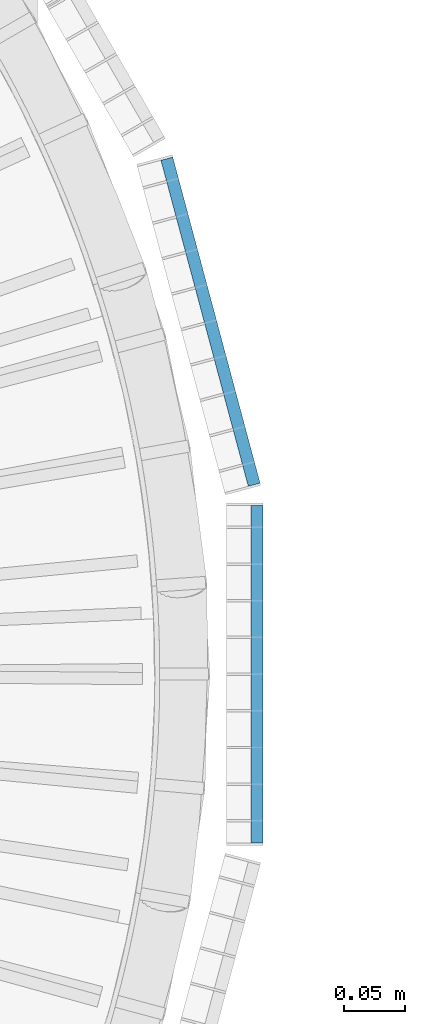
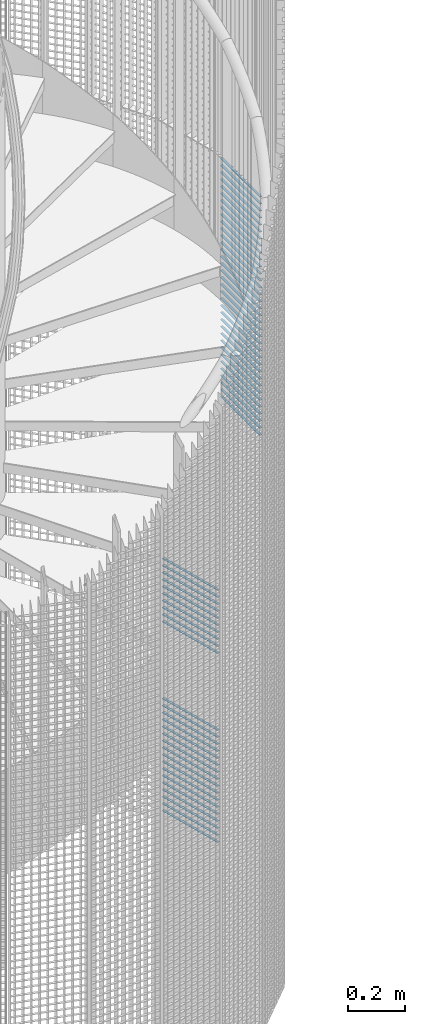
# One storey, part 312 of 1183: 62 beams, 2 elements without a shape of their own.
"""IFC2X3 building model written with IfcOpenShell, lengths in millimetres."""

import ifcopenshell
import ifcopenshell.guid

model = None  # the IFC model being written
_history = None  # IfcOwnerHistory: only IFC2X3 demands one
_inside = {}  # id of a spatial element -> (the spatial element, [elements in it])
_under = {}  # id of a project, library or spatial element -> (it, [spatial elements below it])
_declared = {}  # id of a project -> (the project, [libraries it declares])
_typed = {}  # id of a type object -> (the type object, [elements of that type])
_made_of = {}  # id of a material, layer set ... -> (it, [elements and type objects made of it])


def new_model(schema):
    """Start an empty IFC model of exactly this schema.

    Asked for "IFC4X3", IfcOpenShell would pick the latest addendum, in which some entities
    have other attributes; the version numbers below select the first issue.
    IFC2X3 requires an IfcOwnerHistory on every rooted entity: one is made here for all.
    """
    global model, _history
    if schema == "IFC4X3":
        model = ifcopenshell.file(schema_version=(4, 3, 0, 0))
    else:
        model = ifcopenshell.file(schema=schema)
    _inside.clear()
    _under.clear()
    _declared.clear()
    _typed.clear()
    _made_of.clear()
    _history = None
    if model.schema == "IFC2X3":
        org = make("IfcOrganization", Name="unknown")
        user = make(
            "IfcPersonAndOrganization",
            ThePerson=make("IfcPerson", FamilyName="unknown"),
            TheOrganization=org,
        )
        app = make(
            "IfcApplication",
            ApplicationDeveloper=org,
            Version="unknown",
            ApplicationFullName="unknown",
            ApplicationIdentifier="unknown",
        )
        _history = make(
            "IfcOwnerHistory",
            OwningUser=user,
            OwningApplication=app,
            ChangeAction="ADDED",
            CreationDate=0,
        )
    return model


def make(cls, **values):
    """One entity of the class cls with the attributes given. An attribute that is None is left unset."""
    return model.create_entity(
        cls, **{name: value for name, value in values.items() if value is not None}
    )


def rooted(cls, **values):
    """An entity with a GlobalId (a new one), such as an element, a storey or a relation."""
    return make(cls, GlobalId=ifcopenshell.guid.new(), OwnerHistory=_history, **values)


def si_unit(unit_type, name, prefix=None):
    """IfcSIUnit, for example si_unit("LENGTHUNIT", "METRE", prefix="MILLI")."""
    return make("IfcSIUnit", UnitType=unit_type, Prefix=prefix, Name=name)


def assignment(units):
    """IfcUnitAssignment: the units of a project."""
    return None if units is None else make("IfcUnitAssignment", Units=units)


def point(xyz):
    """IfcCartesianPoint."""
    return None if xyz is None else make("IfcCartesianPoint", Coordinates=xyz)


def direction(xyz):
    """IfcDirection."""
    return None if xyz is None else make("IfcDirection", DirectionRatios=xyz)


def frame(location, z_axis=None, x_axis=None):
    """IfcAxis2Placement3D, a coordinate frame: its origin and axes. An axis left out is left unset."""
    return make(
        "IfcAxis2Placement3D",
        Location=point(location),
        Axis=direction(z_axis),
        RefDirection=direction(x_axis),
    )


def frame_2d(location, x_axis=None):
    """IfcAxis2Placement2D, a coordinate frame in the plane: its origin and x axis."""
    return make(
        "IfcAxis2Placement2D", Location=point(location), RefDirection=direction(x_axis)
    )


def origin_with_axes():
    """The frame at (0, 0, 0) with the z axis (0, 0, 1) and the x axis (1, 0, 0) written out."""
    return frame((0.0, 0.0, 0.0), z_axis=(0.0, 0.0, 1.0), x_axis=(1.0, 0.0, 0.0))


def origin_2d_with_axis():
    """The frame at (0, 0) in the plane with the x axis (1, 0) written out."""
    return frame_2d((0.0, 0.0), x_axis=(1.0, 0.0))


def place(relative_to, where):
    """IfcLocalPlacement: puts the frame where relative to a parent placement (None: the world)."""
    return make(
        "IfcLocalPlacement", PlacementRelTo=relative_to, RelativePlacement=where
    )


def context(
    kind, dimensions, precision=None, world=None, true_north=None, identifier=None
):
    """IfcGeometricRepresentationContext, for example the 3D "Model" context."""
    return make(
        "IfcGeometricRepresentationContext",
        ContextIdentifier=identifier,
        ContextType=kind,
        CoordinateSpaceDimension=dimensions,
        Precision=precision,
        WorldCoordinateSystem=world,
        TrueNorth=true_north,
    )


def subcontext(parent, identifier, kind, view, scale=None):
    """IfcGeometricRepresentationSubContext, for example "Body" below "Model"."""
    return make(
        "IfcGeometricRepresentationSubContext",
        ContextIdentifier=identifier,
        ContextType=kind,
        ParentContext=parent,
        TargetScale=scale,
        TargetView=view,
    )


def project(units=None, contexts=None):
    """IfcProject with its units and contexts."""
    return rooted(
        "IfcProject",
        Name="project",
        RepresentationContexts=contexts,
        UnitsInContext=assignment(units),
    )


def spatial(cls, under=None, at=None, **own):
    """A site, building, storey or space (cls), placed at a placement, below another one or the project."""
    s = rooted(cls, ObjectPlacement=at, **own)
    if under is not None:
        _under.setdefault(under.id(), (under, []))[1].append(s)
    return s


def profile(cls, at=None, kind="AREA", **sizes):
    """A parametric profile (cls). Its sizes go by their IFC names, for example OverallWidth=200.0."""
    return make(cls, ProfileType=kind, Position=at, **sizes)


def rectangle(**sizes):
    """IfcRectangleProfileDef."""
    return profile("IfcRectangleProfileDef", **sizes)


def extrude(swept, where, along, depth):
    """IfcExtrudedAreaSolid: the profile swept, set in the frame where, extruded along a direction by depth."""
    return make(
        "IfcExtrudedAreaSolid",
        SweptArea=swept,
        Position=where,
        ExtrudedDirection=direction(along),
        Depth=depth,
    )


def shape(context_of_items, identifier, shape_type, items):
    """IfcShapeRepresentation: the items that make up one representation, for example the "Body"."""
    return make(
        "IfcShapeRepresentation",
        ContextOfItems=context_of_items,
        RepresentationIdentifier=identifier,
        RepresentationType=shape_type,
        Items=items,
    )


def material(Name=None, Category=None):
    """IfcMaterial."""
    return make("IfcMaterial", Name=Name, Category=Category)


def made_of(thing, what):
    """Note that an element or type object is made of a material, layer set ...; save() writes the relation."""
    if what is not None:
        _made_of.setdefault(what.id(), (what, []))[1].append(thing)
    return thing


def type_object(cls, material=None, **own):
    """A type object (cls), such as IfcWallType, which elements share."""
    return made_of(rooted(cls, **own), material)


def element(
    cls,
    number,
    at=None,
    inside=None,
    cuts=None,
    type_object=None,
    material=None,
    context=None,
    identifier="Body",
    shape_type=None,
    held_by="IfcProductDefinitionShape",
    body=None,
    shapes=None,
    **own,
):
    """One element of the class cls, such as IfcWall. Its Tag is "e" and its number.

    at: its placement. inside: the storey or other place that contains it. cuts: it is an
    opening in that element (IfcRelVoidsElement). A single representation is given by context,
    identifier, shape_type and body (its items); several are given by shapes. held_by: the class
    of the entity that holds the representations. save() writes the other relations.
    """
    e = rooted(cls, Tag="e%d" % number, ObjectPlacement=at, **own)
    if body is not None:
        shapes = [shape(context, identifier, shape_type, body)]
    if shapes is not None:
        e.Representation = make(held_by, Representations=shapes)
    if inside is not None:
        _inside.setdefault(inside.id(), (inside, []))[1].append(e)
    if cuts is not None:
        rooted(
            "IfcRelVoidsElement", RelatingBuildingElement=cuts, RelatedOpeningElement=e
        )
    if type_object is not None:
        _typed.setdefault(type_object.id(), (type_object, []))[1].append(e)
    return made_of(e, material)


def aggregate(whole, parts):
    """IfcRelAggregates: a whole, such as a stair, and the parts it consists of."""
    return rooted("IfcRelAggregates", RelatingObject=whole, RelatedObjects=parts)


def save(model, path):
    """Write the relations noted so far, then the file.

    IfcRelAggregates (storeys below a building ...), IfcRelContainedInSpatialStructure (elements
    in a storey), IfcRelDefinesByType, IfcRelAssociatesMaterial and IfcRelDeclares: one each for
    every whole, place, type object, material and project.
    """
    for whole, parts in _under.values():
        aggregate(whole, parts)
    for where, things in _inside.values():
        rooted(
            "IfcRelContainedInSpatialStructure",
            RelatedElements=things,
            RelatingStructure=where,
        )
    for kind, things in _typed.values():
        rooted("IfcRelDefinesByType", RelatedObjects=things, RelatingType=kind)
    for what, things in _made_of.values():
        rooted("IfcRelAssociatesMaterial", RelatedObjects=things, RelatingMaterial=what)
    for by, libraries in _declared.values():
        rooted("IfcRelDeclares", RelatingContext=by, RelatedDefinitions=libraries)
    model.write(path)


model = new_model("IFC2X3")

# Units and contexts
model_context = context("Model", 3, precision=1e-05, world=origin_with_axes())
body_context = subcontext(model_context, "Body", "Model", "MODEL_VIEW")
ifc_project = project(units=[si_unit("LENGTHUNIT", "METRE", prefix="MILLI"), si_unit("AREAUNIT", "SQUARE_METRE"), si_unit("VOLUMEUNIT", "CUBIC_METRE"), si_unit("MASSUNIT", "GRAM", prefix="KILO"), si_unit("TIMEUNIT", "SECOND"), si_unit("PLANEANGLEUNIT", "RADIAN"), si_unit("SOLIDANGLEUNIT", "STERADIAN"), si_unit("THERMODYNAMICTEMPERATUREUNIT", "DEGREE_CELSIUS"), si_unit("LUMINOUSINTENSITYUNIT", "LUMEN")], contexts=[model_context])

# Site, building, storey
site_placement = place(None, origin_with_axes())
site = spatial("IfcSite", under=ifc_project, at=site_placement, Name="Undefined", CompositionType="ELEMENT")
building_placement = place(site_placement, origin_with_axes())
building = spatial("IfcBuilding", under=site, at=building_placement, Name="Undefined", CompositionType="ELEMENT")
storey_placement = place(building_placement, origin_with_axes())
storey = spatial("IfcBuildingStorey", under=building, at=storey_placement, Name="Undefined", CompositionType="ELEMENT", Elevation=0.0)

# Assembly, beams
assembly_1_placement = place(storey_placement, origin_with_axes())
assembly_1 = element("IfcElementAssembly", 1, at=assembly_1_placement, inside=storey, Name="BORDURE", AssemblyPlace="NOTDEFINED", PredefinedType="NOTDEFINED")
ifc_material = material(Name="STEEL/S235JR")
beam_type = type_object("IfcBeamType", Name="PL2*10", PredefinedType="NOTDEFINED")
beam_1_placement = place(assembly_1_placement, frame((1111.25508286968, 154.895926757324, 839.999999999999), z_axis=(0.965925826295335, 0.258819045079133, 0.0), x_axis=(-0.258819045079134, 0.965925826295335, 0.0)))
beam_1 = element("IfcBeam", 2, at=beam_1_placement, type_object=beam_type, material=ifc_material, Name="ENTRETOISE", context=body_context, shape_type="SweptSolid", body=[
    extrude(rectangle(XDim=2.0, YDim=10.0, at=origin_2d_with_axis()), frame((275.999999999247, 9.09494701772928e-13, 1.53210777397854e-14), z_axis=(-1.0, 0.0, 0.0), x_axis=(0.0, -1.0, 0.0)), (0.0, 0.0, 1.0), 276.0),
])
beam_2_placement = place(assembly_1_placement, frame((1111.25508286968, 154.895926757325, 509.999999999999), z_axis=(0.965925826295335, 0.258819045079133, 0.0), x_axis=(-0.258819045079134, 0.965925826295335, 0.0)))
beam_2 = element("IfcBeam", 3, at=beam_2_placement, type_object=beam_type, material=ifc_material, Name="ENTRETOISE", context=body_context, shape_type="SweptSolid", body=[
    extrude(rectangle(XDim=2.0, YDim=10.0, at=origin_2d_with_axis()), frame((275.999999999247, 9.09494701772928e-13, 1.53210777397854e-14), z_axis=(-1.0, 0.0, 0.0), x_axis=(0.0, -1.0, 0.0)), (0.0, 0.0, 1.0), 276.0),
])
beam_3_placement = place(assembly_1_placement, frame((1111.25508286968, 154.895926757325, 479.999999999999), z_axis=(0.965925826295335, 0.258819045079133, 0.0), x_axis=(-0.258819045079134, 0.965925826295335, 0.0)))
beam_3 = element("IfcBeam", 4, at=beam_3_placement, type_object=beam_type, material=ifc_material, Name="ENTRETOISE", context=body_context, shape_type="SweptSolid", body=[
    extrude(rectangle(XDim=2.0, YDim=10.0, at=origin_2d_with_axis()), frame((275.999999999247, 9.09494701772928e-13, 1.53210777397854e-14), z_axis=(-1.0, 0.0, 0.0), x_axis=(0.0, -1.0, 0.0)), (0.0, 0.0, 1.0), 276.0),
])
beam_4_placement = place(assembly_1_placement, frame((1111.25508286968, 154.895926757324, 869.999999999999), z_axis=(0.965925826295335, 0.258819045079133, 0.0), x_axis=(-0.258819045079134, 0.965925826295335, 0.0)))
beam_4 = element("IfcBeam", 5, at=beam_4_placement, type_object=beam_type, material=ifc_material, Name="ENTRETOISE", context=body_context, shape_type="SweptSolid", body=[
    extrude(rectangle(XDim=2.0, YDim=10.0, at=origin_2d_with_axis()), frame((275.999999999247, 9.09494701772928e-13, 1.53210777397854e-14), z_axis=(-1.0, 0.0, 0.0), x_axis=(0.0, -1.0, 0.0)), (0.0, 0.0, 1.0), 276.0),
])
beam_5_placement = place(assembly_1_placement, frame((1111.25508286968, 154.895926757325, 449.999999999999), z_axis=(0.965925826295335, 0.258819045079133, 0.0), x_axis=(-0.258819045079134, 0.965925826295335, 0.0)))
beam_5 = element("IfcBeam", 6, at=beam_5_placement, type_object=beam_type, material=ifc_material, Name="ENTRETOISE", context=body_context, shape_type="SweptSolid", body=[
    extrude(rectangle(XDim=2.0, YDim=10.0, at=origin_2d_with_axis()), frame((275.999999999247, 9.09494701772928e-13, 1.53210777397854e-14), z_axis=(-1.0, 0.0, 0.0), x_axis=(0.0, -1.0, 0.0)), (0.0, 0.0, 1.0), 276.0),
])
beam_6_placement = place(assembly_1_placement, frame((1111.25508286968, 154.895926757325, 419.999999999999), z_axis=(0.965925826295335, 0.258819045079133, 0.0), x_axis=(-0.258819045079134, 0.965925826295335, 0.0)))
beam_6 = element("IfcBeam", 7, at=beam_6_placement, type_object=beam_type, material=ifc_material, Name="ENTRETOISE", context=body_context, shape_type="SweptSolid", body=[
    extrude(rectangle(XDim=2.0, YDim=10.0, at=origin_2d_with_axis()), frame((275.999999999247, 9.09494701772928e-13, 1.53210777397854e-14), z_axis=(-1.0, 0.0, 0.0), x_axis=(0.0, -1.0, 0.0)), (0.0, 0.0, 1.0), 276.0),
])
beam_7_placement = place(assembly_1_placement, frame((1111.25508286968, 154.895926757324, 899.999999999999), z_axis=(0.965925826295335, 0.258819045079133, 0.0), x_axis=(-0.258819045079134, 0.965925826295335, 0.0)))
beam_7 = element("IfcBeam", 8, at=beam_7_placement, type_object=beam_type, material=ifc_material, Name="ENTRETOISE", context=body_context, shape_type="SweptSolid", body=[
    extrude(rectangle(XDim=2.0, YDim=10.0, at=origin_2d_with_axis()), frame((275.999999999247, 9.09494701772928e-13, 1.53210777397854e-14), z_axis=(-1.0, 0.0, 0.0), x_axis=(0.0, -1.0, 0.0)), (0.0, 0.0, 1.0), 276.0),
])
beam_8_placement = place(assembly_1_placement, frame((1111.25508286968, 154.895926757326, 389.999999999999), z_axis=(0.965925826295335, 0.258819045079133, 0.0), x_axis=(-0.258819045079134, 0.965925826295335, 0.0)))
beam_8 = element("IfcBeam", 9, at=beam_8_placement, type_object=beam_type, material=ifc_material, Name="ENTRETOISE", context=body_context, shape_type="SweptSolid", body=[
    extrude(rectangle(XDim=2.0, YDim=10.0, at=origin_2d_with_axis()), frame((275.999999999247, 9.09494701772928e-13, 1.53210777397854e-14), z_axis=(-1.0, 0.0, 0.0), x_axis=(0.0, -1.0, 0.0)), (0.0, 0.0, 1.0), 276.0),
])
beam_9_placement = place(assembly_1_placement, frame((1111.25508286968, 154.895926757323, 929.999999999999), z_axis=(0.965925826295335, 0.258819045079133, 0.0), x_axis=(-0.258819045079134, 0.965925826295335, 0.0)))
beam_9 = element("IfcBeam", 10, at=beam_9_placement, type_object=beam_type, material=ifc_material, Name="ENTRETOISE", context=body_context, shape_type="SweptSolid", body=[
    extrude(rectangle(XDim=2.0, YDim=10.0, at=origin_2d_with_axis()), frame((275.999999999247, 9.09494701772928e-13, 1.53210777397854e-14), z_axis=(-1.0, 0.0, 0.0), x_axis=(0.0, -1.0, 0.0)), (0.0, 0.0, 1.0), 276.0),
])
beam_10_placement = place(assembly_1_placement, frame((1111.25508286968, 154.895926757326, 359.999999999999), z_axis=(0.965925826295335, 0.258819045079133, 0.0), x_axis=(-0.258819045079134, 0.965925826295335, 0.0)))
beam_10 = element("IfcBeam", 11, at=beam_10_placement, type_object=beam_type, material=ifc_material, Name="ENTRETOISE", context=body_context, shape_type="SweptSolid", body=[
    extrude(rectangle(XDim=2.0, YDim=10.0, at=origin_2d_with_axis()), frame((275.999999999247, 9.09494701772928e-13, 1.53210777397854e-14), z_axis=(-1.0, 0.0, 0.0), x_axis=(0.0, -1.0, 0.0)), (0.0, 0.0, 1.0), 276.0),
])
beam_11_placement = place(assembly_1_placement, frame((1111.25508286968, 154.895926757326, 329.999999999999), z_axis=(0.965925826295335, 0.258819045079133, 0.0), x_axis=(-0.258819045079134, 0.965925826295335, 0.0)))
beam_11 = element("IfcBeam", 12, at=beam_11_placement, type_object=beam_type, material=ifc_material, Name="ENTRETOISE", context=body_context, shape_type="SweptSolid", body=[
    extrude(rectangle(XDim=2.0, YDim=10.0, at=origin_2d_with_axis()), frame((275.999999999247, 9.09494701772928e-13, 1.53210777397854e-14), z_axis=(-1.0, 0.0, 0.0), x_axis=(0.0, -1.0, 0.0)), (0.0, 0.0, 1.0), 276.0),
])
beam_12_placement = place(assembly_1_placement, frame((1111.25508286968, 154.895926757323, 959.999999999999), z_axis=(0.965925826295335, 0.258819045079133, 0.0), x_axis=(-0.258819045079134, 0.965925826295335, 0.0)))
beam_12 = element("IfcBeam", 13, at=beam_12_placement, type_object=beam_type, material=ifc_material, Name="ENTRETOISE", context=body_context, shape_type="SweptSolid", body=[
    extrude(rectangle(XDim=2.0, YDim=10.0, at=origin_2d_with_axis()), frame((275.999999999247, 9.09494701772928e-13, 1.53210777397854e-14), z_axis=(-1.0, 0.0, 0.0), x_axis=(0.0, -1.0, 0.0)), (0.0, 0.0, 1.0), 276.0),
])
beam_13_placement = place(assembly_1_placement, frame((1111.25508286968, 154.895926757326, 299.999999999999), z_axis=(0.965925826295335, 0.258819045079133, 0.0), x_axis=(-0.258819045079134, 0.965925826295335, 0.0)))
beam_13 = element("IfcBeam", 14, at=beam_13_placement, type_object=beam_type, material=ifc_material, Name="ENTRETOISE", context=body_context, shape_type="SweptSolid", body=[
    extrude(rectangle(XDim=2.0, YDim=10.0, at=origin_2d_with_axis()), frame((275.999999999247, 9.09494701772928e-13, 1.53210777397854e-14), z_axis=(-1.0, 0.0, 0.0), x_axis=(0.0, -1.0, 0.0)), (0.0, 0.0, 1.0), 276.0),
])
beam_14_placement = place(assembly_1_placement, frame((1111.25508286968, 154.895926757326, 269.999999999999), z_axis=(0.965925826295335, 0.258819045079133, 0.0), x_axis=(-0.258819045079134, 0.965925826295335, 0.0)))
beam_14 = element("IfcBeam", 15, at=beam_14_placement, type_object=beam_type, material=ifc_material, Name="ENTRETOISE", context=body_context, shape_type="SweptSolid", body=[
    extrude(rectangle(XDim=2.0, YDim=10.0, at=origin_2d_with_axis()), frame((275.999999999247, 9.09494701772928e-13, 1.53210777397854e-14), z_axis=(-1.0, 0.0, 0.0), x_axis=(0.0, -1.0, 0.0)), (0.0, 0.0, 1.0), 276.0),
])
beam_15_placement = place(assembly_1_placement, frame((1111.25508286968, 154.895926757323, 989.999999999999), z_axis=(0.965925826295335, 0.258819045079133, 0.0), x_axis=(-0.258819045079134, 0.965925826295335, 0.0)))
beam_15 = element("IfcBeam", 16, at=beam_15_placement, type_object=beam_type, material=ifc_material, Name="ENTRETOISE", context=body_context, shape_type="SweptSolid", body=[
    extrude(rectangle(XDim=2.0, YDim=10.0, at=origin_2d_with_axis()), frame((275.999999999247, 9.09494701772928e-13, 1.53210777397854e-14), z_axis=(-1.0, 0.0, 0.0), x_axis=(0.0, -1.0, 0.0)), (0.0, 0.0, 1.0), 276.0),
])
beam_16_placement = place(assembly_1_placement, frame((1111.25508286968, 154.895926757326, 239.999999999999), z_axis=(0.965925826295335, 0.258819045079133, 0.0), x_axis=(-0.258819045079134, 0.965925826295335, 0.0)))
beam_16 = element("IfcBeam", 17, at=beam_16_placement, type_object=beam_type, material=ifc_material, Name="ENTRETOISE", context=body_context, shape_type="SweptSolid", body=[
    extrude(rectangle(XDim=2.0, YDim=10.0, at=origin_2d_with_axis()), frame((275.999999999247, 9.09494701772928e-13, 1.53210777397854e-14), z_axis=(-1.0, 0.0, 0.0), x_axis=(0.0, -1.0, 0.0)), (0.0, 0.0, 1.0), 276.0),
])
beam_17_placement = place(assembly_1_placement, frame((1111.25508286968, 154.895926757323, 1020.0), z_axis=(0.965925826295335, 0.258819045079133, 0.0), x_axis=(-0.258819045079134, 0.965925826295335, 0.0)))
beam_17 = element("IfcBeam", 18, at=beam_17_placement, type_object=beam_type, material=ifc_material, Name="ENTRETOISE", context=body_context, shape_type="SweptSolid", body=[
    extrude(rectangle(XDim=2.0, YDim=10.0, at=origin_2d_with_axis()), frame((275.999999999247, 9.09494701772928e-13, 1.53210777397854e-14), z_axis=(-1.0, 0.0, 0.0), x_axis=(0.0, -1.0, 0.0)), (0.0, 0.0, 1.0), 276.0),
])
beam_18_placement = place(assembly_1_placement, frame((1111.25508286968, 154.895926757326, 209.999999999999), z_axis=(0.965925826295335, 0.258819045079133, 0.0), x_axis=(-0.258819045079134, 0.965925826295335, 0.0)))
beam_18 = element("IfcBeam", 19, at=beam_18_placement, type_object=beam_type, material=ifc_material, Name="ENTRETOISE", context=body_context, shape_type="SweptSolid", body=[
    extrude(rectangle(XDim=2.0, YDim=10.0, at=origin_2d_with_axis()), frame((275.999999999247, 9.09494701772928e-13, 1.53210777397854e-14), z_axis=(-1.0, 0.0, 0.0), x_axis=(0.0, -1.0, 0.0)), (0.0, 0.0, 1.0), 276.0),
])
beam_19_placement = place(assembly_1_placement, frame((1111.25508286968, 154.895926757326, 179.999999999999), z_axis=(0.965925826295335, 0.258819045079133, 0.0), x_axis=(-0.258819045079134, 0.965925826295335, 0.0)))
beam_19 = element("IfcBeam", 20, at=beam_19_placement, type_object=beam_type, material=ifc_material, Name="ENTRETOISE", context=body_context, shape_type="SweptSolid", body=[
    extrude(rectangle(XDim=2.0, YDim=10.0, at=origin_2d_with_axis()), frame((275.999999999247, 9.09494701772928e-13, 1.53210777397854e-14), z_axis=(-1.0, 0.0, 0.0), x_axis=(0.0, -1.0, 0.0)), (0.0, 0.0, 1.0), 276.0),
])
beam_20_placement = place(assembly_1_placement, frame((1111.25508286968, 154.895926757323, 1050.0), z_axis=(0.965925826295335, 0.258819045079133, 0.0), x_axis=(-0.258819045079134, 0.965925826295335, 0.0)))
beam_20 = element("IfcBeam", 21, at=beam_20_placement, type_object=beam_type, material=ifc_material, Name="ENTRETOISE", context=body_context, shape_type="SweptSolid", body=[
    extrude(rectangle(XDim=2.0, YDim=10.0, at=origin_2d_with_axis()), frame((275.999999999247, 9.09494701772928e-13, 1.53210777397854e-14), z_axis=(-1.0, 0.0, 0.0), x_axis=(0.0, -1.0, 0.0)), (0.0, 0.0, 1.0), 276.0),
])
beam_21_placement = place(assembly_1_placement, frame((1111.25508286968, 154.895926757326, 149.999999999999), z_axis=(0.965925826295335, 0.258819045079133, 0.0), x_axis=(-0.258819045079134, 0.965925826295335, 0.0)))
beam_21 = element("IfcBeam", 22, at=beam_21_placement, type_object=beam_type, material=ifc_material, Name="ENTRETOISE", context=body_context, shape_type="SweptSolid", body=[
    extrude(rectangle(XDim=2.0, YDim=10.0, at=origin_2d_with_axis()), frame((275.999999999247, 9.09494701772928e-13, 1.53210777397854e-14), z_axis=(-1.0, 0.0, 0.0), x_axis=(0.0, -1.0, 0.0)), (0.0, 0.0, 1.0), 276.0),
])
beam_22_placement = place(assembly_1_placement, frame((1111.25508286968, 154.895926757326, 119.999999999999), z_axis=(0.965925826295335, 0.258819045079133, 0.0), x_axis=(-0.258819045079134, 0.965925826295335, 0.0)))
beam_22 = element("IfcBeam", 23, at=beam_22_placement, type_object=beam_type, material=ifc_material, Name="ENTRETOISE", context=body_context, shape_type="SweptSolid", body=[
    extrude(rectangle(XDim=2.0, YDim=10.0, at=origin_2d_with_axis()), frame((275.999999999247, 9.09494701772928e-13, 1.53210777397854e-14), z_axis=(-1.0, 0.0, 0.0), x_axis=(0.0, -1.0, 0.0)), (0.0, 0.0, 1.0), 276.0),
])
beam_23_placement = place(assembly_1_placement, frame((1111.25508286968, 154.895926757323, 1080.0), z_axis=(0.965925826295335, 0.258819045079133, 0.0), x_axis=(-0.258819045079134, 0.965925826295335, 0.0)))
beam_23 = element("IfcBeam", 24, at=beam_23_placement, type_object=beam_type, material=ifc_material, Name="ENTRETOISE", context=body_context, shape_type="SweptSolid", body=[
    extrude(rectangle(XDim=2.0, YDim=10.0, at=origin_2d_with_axis()), frame((275.999999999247, 9.09494701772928e-13, 1.53210777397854e-14), z_axis=(-1.0, 0.0, 0.0), x_axis=(0.0, -1.0, 0.0)), (0.0, 0.0, 1.0), 276.0),
])
beam_24_placement = place(assembly_1_placement, frame((1111.25508286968, 154.895926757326, 89.9999999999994), z_axis=(0.965925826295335, 0.258819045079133, 0.0), x_axis=(-0.258819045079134, 0.965925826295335, 0.0)))
beam_24 = element("IfcBeam", 25, at=beam_24_placement, type_object=beam_type, material=ifc_material, Name="ENTRETOISE", context=body_context, shape_type="SweptSolid", body=[
    extrude(rectangle(XDim=2.0, YDim=10.0, at=origin_2d_with_axis()), frame((275.999999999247, 9.09494701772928e-13, 1.53210777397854e-14), z_axis=(-1.0, 0.0, 0.0), x_axis=(0.0, -1.0, 0.0)), (0.0, 0.0, 1.0), 276.0),
])
beam_25_placement = place(assembly_1_placement, frame((1111.25508286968, 154.895926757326, 59.9999999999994), z_axis=(0.965925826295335, 0.258819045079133, 0.0), x_axis=(-0.258819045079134, 0.965925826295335, 0.0)))
beam_25 = element("IfcBeam", 26, at=beam_25_placement, type_object=beam_type, material=ifc_material, Name="ENTRETOISE", context=body_context, shape_type="SweptSolid", body=[
    extrude(rectangle(XDim=2.0, YDim=10.0, at=origin_2d_with_axis()), frame((275.999999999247, 9.09494701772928e-13, 1.53210777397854e-14), z_axis=(-1.0, 0.0, 0.0), x_axis=(0.0, -1.0, 0.0)), (0.0, 0.0, 1.0), 276.0),
])
beam_26_placement = place(assembly_1_placement, frame((1111.25508286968, 154.895926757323, 1110.0), z_axis=(0.965925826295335, 0.258819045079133, 0.0), x_axis=(-0.258819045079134, 0.965925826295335, 0.0)))
beam_26 = element("IfcBeam", 27, at=beam_26_placement, type_object=beam_type, material=ifc_material, Name="ENTRETOISE", context=body_context, shape_type="SweptSolid", body=[
    extrude(rectangle(XDim=2.0, YDim=10.0, at=origin_2d_with_axis()), frame((275.999999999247, 9.09494701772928e-13, 1.53210777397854e-14), z_axis=(-1.0, 0.0, 0.0), x_axis=(0.0, -1.0, 0.0)), (0.0, 0.0, 1.0), 276.0),
])
beam_27_placement = place(assembly_1_placement, frame((1111.25508286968, 154.895926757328, 29.9999999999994), z_axis=(0.965925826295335, 0.258819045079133, 0.0), x_axis=(-0.258819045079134, 0.965925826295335, 0.0)))
beam_27 = element("IfcBeam", 28, at=beam_27_placement, type_object=beam_type, material=ifc_material, Name="ENTRETOISE", context=body_context, shape_type="SweptSolid", body=[
    extrude(rectangle(XDim=2.0, YDim=10.0, at=origin_2d_with_axis()), frame((275.999999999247, 9.09494701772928e-13, 1.53210777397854e-14), z_axis=(-1.0, 0.0, 0.0), x_axis=(0.0, -1.0, 0.0)), (0.0, 0.0, 1.0), 276.0),
])
aggregate(assembly_1, [beam_1, beam_2, beam_3, beam_4, beam_5, beam_6, beam_7, beam_8, beam_9, beam_10, beam_11, beam_12, beam_13, beam_14, beam_15, beam_16, beam_17, beam_18, beam_19, beam_20, beam_21, beam_22, beam_23, beam_24, beam_25, beam_26, beam_27])

assembly_2_placement = place(storey_placement, origin_with_axes())
assembly_2 = element("IfcElementAssembly", 29, at=assembly_2_placement, inside=storey, Name="BORDURE", AssemblyPlace="NOTDEFINED", PredefinedType="NOTDEFINED")
beam_28_placement = place(assembly_2_placement, frame((1113.47999999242, -137.996003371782, 2970.0), z_axis=(1.0, 0.0, 0.0), x_axis=(0.0, 1.0, 0.0)))
beam_28 = element("IfcBeam", 30, at=beam_28_placement, type_object=beam_type, material=ifc_material, Name="ENTRETOISE", context=body_context, shape_type="SweptSolid", body=[
    extrude(rectangle(XDim=2.0, YDim=10.0, at=origin_2d_with_axis()), frame((275.999999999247, 9.09494701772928e-13, 1.53210777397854e-14), z_axis=(-1.0, 0.0, 0.0), x_axis=(0.0, -1.0, 0.0)), (0.0, 0.0, 1.0), 276.0),
])
beam_29_placement = place(assembly_2_placement, frame((1113.47999999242, -137.996003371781, 2940.0), z_axis=(1.0, 0.0, 0.0), x_axis=(0.0, 1.0, 0.0)))
beam_29 = element("IfcBeam", 31, at=beam_29_placement, type_object=beam_type, material=ifc_material, Name="ENTRETOISE", context=body_context, shape_type="SweptSolid", body=[
    extrude(rectangle(XDim=2.0, YDim=10.0, at=origin_2d_with_axis()), frame((275.999999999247, 9.09494701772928e-13, 1.53210777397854e-14), z_axis=(-1.0, 0.0, 0.0), x_axis=(0.0, -1.0, 0.0)), (0.0, 0.0, 1.0), 276.0),
])
beam_30_placement = place(assembly_2_placement, frame((1113.47999999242, -137.996003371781, 2910.0), z_axis=(1.0, 0.0, 0.0), x_axis=(0.0, 1.0, 0.0)))
beam_30 = element("IfcBeam", 32, at=beam_30_placement, type_object=beam_type, material=ifc_material, Name="ENTRETOISE", context=body_context, shape_type="SweptSolid", body=[
    extrude(rectangle(XDim=2.0, YDim=10.0, at=origin_2d_with_axis()), frame((275.999999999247, 9.09494701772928e-13, 1.53210777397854e-14), z_axis=(-1.0, 0.0, 0.0), x_axis=(0.0, -1.0, 0.0)), (0.0, 0.0, 1.0), 276.0),
])
beam_31_placement = place(assembly_2_placement, frame((1113.47999999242, -137.996003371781, 2880.0), z_axis=(1.0, 0.0, 0.0), x_axis=(0.0, 1.0, 0.0)))
beam_31 = element("IfcBeam", 33, at=beam_31_placement, type_object=beam_type, material=ifc_material, Name="ENTRETOISE", context=body_context, shape_type="SweptSolid", body=[
    extrude(rectangle(XDim=2.0, YDim=10.0, at=origin_2d_with_axis()), frame((275.999999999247, 9.09494701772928e-13, 1.53210777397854e-14), z_axis=(-1.0, 0.0, 0.0), x_axis=(0.0, -1.0, 0.0)), (0.0, 0.0, 1.0), 276.0),
])
beam_32_placement = place(assembly_2_placement, frame((1113.47999999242, -137.996003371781, 2850.0), z_axis=(1.0, 0.0, 0.0), x_axis=(0.0, 1.0, 0.0)))
beam_32 = element("IfcBeam", 34, at=beam_32_placement, type_object=beam_type, material=ifc_material, Name="ENTRETOISE", context=body_context, shape_type="SweptSolid", body=[
    extrude(rectangle(XDim=2.0, YDim=10.0, at=origin_2d_with_axis()), frame((275.999999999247, 9.09494701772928e-13, 1.53210777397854e-14), z_axis=(-1.0, 0.0, 0.0), x_axis=(0.0, -1.0, 0.0)), (0.0, 0.0, 1.0), 276.0),
])
beam_33_placement = place(assembly_2_placement, frame((1113.47999999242, -137.996003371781, 2820.0), z_axis=(1.0, 0.0, 0.0), x_axis=(0.0, 1.0, 0.0)))
beam_33 = element("IfcBeam", 35, at=beam_33_placement, type_object=beam_type, material=ifc_material, Name="ENTRETOISE", context=body_context, shape_type="SweptSolid", body=[
    extrude(rectangle(XDim=2.0, YDim=10.0, at=origin_2d_with_axis()), frame((275.999999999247, 9.09494701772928e-13, 1.53210777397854e-14), z_axis=(-1.0, 0.0, 0.0), x_axis=(0.0, -1.0, 0.0)), (0.0, 0.0, 1.0), 276.0),
])
beam_34_placement = place(assembly_2_placement, frame((1113.47999999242, -137.996003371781, 2790.0), z_axis=(1.0, 0.0, 0.0), x_axis=(0.0, 1.0, 0.0)))
beam_34 = element("IfcBeam", 36, at=beam_34_placement, type_object=beam_type, material=ifc_material, Name="ENTRETOISE", context=body_context, shape_type="SweptSolid", body=[
    extrude(rectangle(XDim=2.0, YDim=10.0, at=origin_2d_with_axis()), frame((275.999999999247, 9.09494701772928e-13, 1.53210777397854e-14), z_axis=(-1.0, 0.0, 0.0), x_axis=(0.0, -1.0, 0.0)), (0.0, 0.0, 1.0), 276.0),
])
beam_35_placement = place(assembly_2_placement, frame((1113.47999999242, -137.996003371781, 2760.0), z_axis=(1.0, 0.0, 0.0), x_axis=(0.0, 1.0, 0.0)))
beam_35 = element("IfcBeam", 37, at=beam_35_placement, type_object=beam_type, material=ifc_material, Name="ENTRETOISE", context=body_context, shape_type="SweptSolid", body=[
    extrude(rectangle(XDim=2.0, YDim=10.0, at=origin_2d_with_axis()), frame((275.999999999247, 9.09494701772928e-13, 1.53210777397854e-14), z_axis=(-1.0, 0.0, 0.0), x_axis=(0.0, -1.0, 0.0)), (0.0, 0.0, 1.0), 276.0),
])
beam_36_placement = place(assembly_2_placement, frame((1113.47999999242, -137.996003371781, 2730.0), z_axis=(1.0, 0.0, 0.0), x_axis=(0.0, 1.0, 0.0)))
beam_36 = element("IfcBeam", 38, at=beam_36_placement, type_object=beam_type, material=ifc_material, Name="ENTRETOISE", context=body_context, shape_type="SweptSolid", body=[
    extrude(rectangle(XDim=2.0, YDim=10.0, at=origin_2d_with_axis()), frame((275.999999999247, 9.09494701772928e-13, 1.53210777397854e-14), z_axis=(-1.0, 0.0, 0.0), x_axis=(0.0, -1.0, 0.0)), (0.0, 0.0, 1.0), 276.0),
])
beam_37_placement = place(assembly_2_placement, frame((1113.47999999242, -137.996003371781, 2700.0), z_axis=(1.0, 0.0, 0.0), x_axis=(0.0, 1.0, 0.0)))
beam_37 = element("IfcBeam", 39, at=beam_37_placement, type_object=beam_type, material=ifc_material, Name="ENTRETOISE", context=body_context, shape_type="SweptSolid", body=[
    extrude(rectangle(XDim=2.0, YDim=10.0, at=origin_2d_with_axis()), frame((275.999999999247, 9.09494701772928e-13, 1.53210777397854e-14), z_axis=(-1.0, 0.0, 0.0), x_axis=(0.0, -1.0, 0.0)), (0.0, 0.0, 1.0), 276.0),
])
beam_38_placement = place(assembly_2_placement, frame((1113.47999999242, -137.996003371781, 2670.0), z_axis=(1.0, 0.0, 0.0), x_axis=(0.0, 1.0, 0.0)))
beam_38 = element("IfcBeam", 40, at=beam_38_placement, type_object=beam_type, material=ifc_material, Name="ENTRETOISE", context=body_context, shape_type="SweptSolid", body=[
    extrude(rectangle(XDim=2.0, YDim=10.0, at=origin_2d_with_axis()), frame((275.999999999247, 9.09494701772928e-13, 1.53210777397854e-14), z_axis=(-1.0, 0.0, 0.0), x_axis=(0.0, -1.0, 0.0)), (0.0, 0.0, 1.0), 276.0),
])
beam_39_placement = place(assembly_2_placement, frame((1113.47999999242, -137.99600337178, 2640.0), z_axis=(1.0, 0.0, 0.0), x_axis=(0.0, 1.0, 0.0)))
beam_39 = element("IfcBeam", 41, at=beam_39_placement, type_object=beam_type, material=ifc_material, Name="ENTRETOISE", context=body_context, shape_type="SweptSolid", body=[
    extrude(rectangle(XDim=2.0, YDim=10.0, at=origin_2d_with_axis()), frame((275.999999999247, 9.09494701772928e-13, 1.53210777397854e-14), z_axis=(-1.0, 0.0, 0.0), x_axis=(0.0, -1.0, 0.0)), (0.0, 0.0, 1.0), 276.0),
])
beam_40_placement = place(assembly_2_placement, frame((1113.47999999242, -137.99600337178, 2610.0), z_axis=(1.0, 0.0, 0.0), x_axis=(0.0, 1.0, 0.0)))
beam_40 = element("IfcBeam", 42, at=beam_40_placement, type_object=beam_type, material=ifc_material, Name="ENTRETOISE", context=body_context, shape_type="SweptSolid", body=[
    extrude(rectangle(XDim=2.0, YDim=10.0, at=origin_2d_with_axis()), frame((275.999999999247, 9.09494701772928e-13, 1.53210777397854e-14), z_axis=(-1.0, 0.0, 0.0), x_axis=(0.0, -1.0, 0.0)), (0.0, 0.0, 1.0), 276.0),
])
beam_41_placement = place(assembly_2_placement, frame((1113.47999999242, -137.99600337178, 2580.0), z_axis=(1.0, 0.0, 0.0), x_axis=(0.0, 1.0, 0.0)))
beam_41 = element("IfcBeam", 43, at=beam_41_placement, type_object=beam_type, material=ifc_material, Name="ENTRETOISE", context=body_context, shape_type="SweptSolid", body=[
    extrude(rectangle(XDim=2.0, YDim=10.0, at=origin_2d_with_axis()), frame((275.999999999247, 9.09494701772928e-13, 1.53210777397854e-14), z_axis=(-1.0, 0.0, 0.0), x_axis=(0.0, -1.0, 0.0)), (0.0, 0.0, 1.0), 276.0),
])
beam_42_placement = place(assembly_2_placement, frame((1113.47999999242, -137.99600337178, 2550.0), z_axis=(1.0, 0.0, 0.0), x_axis=(0.0, 1.0, 0.0)))
beam_42 = element("IfcBeam", 44, at=beam_42_placement, type_object=beam_type, material=ifc_material, Name="ENTRETOISE", context=body_context, shape_type="SweptSolid", body=[
    extrude(rectangle(XDim=2.0, YDim=10.0, at=origin_2d_with_axis()), frame((275.999999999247, 9.09494701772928e-13, 1.53210777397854e-14), z_axis=(-1.0, 0.0, 0.0), x_axis=(0.0, -1.0, 0.0)), (0.0, 0.0, 1.0), 276.0),
])
beam_43_placement = place(assembly_2_placement, frame((1113.47999999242, -137.99600337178, 2520.0), z_axis=(1.0, 0.0, 0.0), x_axis=(0.0, 1.0, 0.0)))
beam_43 = element("IfcBeam", 45, at=beam_43_placement, type_object=beam_type, material=ifc_material, Name="ENTRETOISE", context=body_context, shape_type="SweptSolid", body=[
    extrude(rectangle(XDim=2.0, YDim=10.0, at=origin_2d_with_axis()), frame((275.999999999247, 9.09494701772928e-13, 1.53210777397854e-14), z_axis=(-1.0, 0.0, 0.0), x_axis=(0.0, -1.0, 0.0)), (0.0, 0.0, 1.0), 276.0),
])
beam_44_placement = place(assembly_2_placement, frame((1113.47999999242, -137.99600337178, 2490.0), z_axis=(1.0, 0.0, 0.0), x_axis=(0.0, 1.0, 0.0)))
beam_44 = element("IfcBeam", 46, at=beam_44_placement, type_object=beam_type, material=ifc_material, Name="ENTRETOISE", context=body_context, shape_type="SweptSolid", body=[
    extrude(rectangle(XDim=2.0, YDim=10.0, at=origin_2d_with_axis()), frame((275.999999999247, 9.09494701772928e-13, 1.53210777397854e-14), z_axis=(-1.0, 0.0, 0.0), x_axis=(0.0, -1.0, 0.0)), (0.0, 0.0, 1.0), 276.0),
])
beam_45_placement = place(assembly_2_placement, frame((1113.47999999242, -137.99600337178, 2460.0), z_axis=(1.0, 0.0, 0.0), x_axis=(0.0, 1.0, 0.0)))
beam_45 = element("IfcBeam", 47, at=beam_45_placement, type_object=beam_type, material=ifc_material, Name="ENTRETOISE", context=body_context, shape_type="SweptSolid", body=[
    extrude(rectangle(XDim=2.0, YDim=10.0, at=origin_2d_with_axis()), frame((275.999999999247, 9.09494701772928e-13, 1.53210777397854e-14), z_axis=(-1.0, 0.0, 0.0), x_axis=(0.0, -1.0, 0.0)), (0.0, 0.0, 1.0), 276.0),
])
beam_46_placement = place(assembly_2_placement, frame((1113.47999999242, -137.99600337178, 2430.0), z_axis=(1.0, 0.0, 0.0), x_axis=(0.0, 1.0, 0.0)))
beam_46 = element("IfcBeam", 48, at=beam_46_placement, type_object=beam_type, material=ifc_material, Name="ENTRETOISE", context=body_context, shape_type="SweptSolid", body=[
    extrude(rectangle(XDim=2.0, YDim=10.0, at=origin_2d_with_axis()), frame((275.999999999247, 9.09494701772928e-13, 1.53210777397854e-14), z_axis=(-1.0, 0.0, 0.0), x_axis=(0.0, -1.0, 0.0)), (0.0, 0.0, 1.0), 276.0),
])
beam_47_placement = place(assembly_2_placement, frame((1113.47999999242, -137.996003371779, 2400.0), z_axis=(1.0, 0.0, 0.0), x_axis=(0.0, 1.0, 0.0)))
beam_47 = element("IfcBeam", 49, at=beam_47_placement, type_object=beam_type, material=ifc_material, Name="ENTRETOISE", context=body_context, shape_type="SweptSolid", body=[
    extrude(rectangle(XDim=2.0, YDim=10.0, at=origin_2d_with_axis()), frame((275.999999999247, 9.09494701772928e-13, 1.53210777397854e-14), z_axis=(-1.0, 0.0, 0.0), x_axis=(0.0, -1.0, 0.0)), (0.0, 0.0, 1.0), 276.0),
])
beam_48_placement = place(assembly_2_placement, frame((1113.47999999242, -137.996003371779, 2370.0), z_axis=(1.0, 0.0, 0.0), x_axis=(0.0, 1.0, 0.0)))
beam_48 = element("IfcBeam", 50, at=beam_48_placement, type_object=beam_type, material=ifc_material, Name="ENTRETOISE", context=body_context, shape_type="SweptSolid", body=[
    extrude(rectangle(XDim=2.0, YDim=10.0, at=origin_2d_with_axis()), frame((275.999999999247, 9.09494701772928e-13, 1.53210777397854e-14), z_axis=(-1.0, 0.0, 0.0), x_axis=(0.0, -1.0, 0.0)), (0.0, 0.0, 1.0), 276.0),
])
beam_49_placement = place(assembly_2_placement, frame((1113.47999999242, -137.996003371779, 2340.0), z_axis=(1.0, 0.0, 0.0), x_axis=(0.0, 1.0, 0.0)))
beam_49 = element("IfcBeam", 51, at=beam_49_placement, type_object=beam_type, material=ifc_material, Name="ENTRETOISE", context=body_context, shape_type="SweptSolid", body=[
    extrude(rectangle(XDim=2.0, YDim=10.0, at=origin_2d_with_axis()), frame((275.999999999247, 9.09494701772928e-13, 1.53210777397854e-14), z_axis=(-1.0, 0.0, 0.0), x_axis=(0.0, -1.0, 0.0)), (0.0, 0.0, 1.0), 276.0),
])
beam_50_placement = place(assembly_2_placement, frame((1113.47999999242, -137.996003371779, 2310.0), z_axis=(1.0, 0.0, 0.0), x_axis=(0.0, 1.0, 0.0)))
beam_50 = element("IfcBeam", 52, at=beam_50_placement, type_object=beam_type, material=ifc_material, Name="ENTRETOISE", context=body_context, shape_type="SweptSolid", body=[
    extrude(rectangle(XDim=2.0, YDim=10.0, at=origin_2d_with_axis()), frame((275.999999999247, 9.09494701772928e-13, 1.53210777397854e-14), z_axis=(-1.0, 0.0, 0.0), x_axis=(0.0, -1.0, 0.0)), (0.0, 0.0, 1.0), 276.0),
])
beam_51_placement = place(assembly_2_placement, frame((1113.47999999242, -137.996003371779, 2280.0), z_axis=(1.0, 0.0, 0.0), x_axis=(0.0, 1.0, 0.0)))
beam_51 = element("IfcBeam", 53, at=beam_51_placement, type_object=beam_type, material=ifc_material, Name="ENTRETOISE", context=body_context, shape_type="SweptSolid", body=[
    extrude(rectangle(XDim=2.0, YDim=10.0, at=origin_2d_with_axis()), frame((275.999999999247, 9.09494701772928e-13, 1.53210777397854e-14), z_axis=(-1.0, 0.0, 0.0), x_axis=(0.0, -1.0, 0.0)), (0.0, 0.0, 1.0), 276.0),
])
beam_52_placement = place(assembly_2_placement, frame((1113.47999999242, -137.996003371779, 2250.0), z_axis=(1.0, 0.0, 0.0), x_axis=(0.0, 1.0, 0.0)))
beam_52 = element("IfcBeam", 54, at=beam_52_placement, type_object=beam_type, material=ifc_material, Name="ENTRETOISE", context=body_context, shape_type="SweptSolid", body=[
    extrude(rectangle(XDim=2.0, YDim=10.0, at=origin_2d_with_axis()), frame((275.999999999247, 9.09494701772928e-13, 1.53210777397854e-14), z_axis=(-1.0, 0.0, 0.0), x_axis=(0.0, -1.0, 0.0)), (0.0, 0.0, 1.0), 276.0),
])
beam_53_placement = place(assembly_2_placement, frame((1113.47999999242, -137.996003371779, 2220.0), z_axis=(1.0, 0.0, 0.0), x_axis=(0.0, 1.0, 0.0)))
beam_53 = element("IfcBeam", 55, at=beam_53_placement, type_object=beam_type, material=ifc_material, Name="ENTRETOISE", context=body_context, shape_type="SweptSolid", body=[
    extrude(rectangle(XDim=2.0, YDim=10.0, at=origin_2d_with_axis()), frame((275.999999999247, 9.09494701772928e-13, 1.53210777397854e-14), z_axis=(-1.0, 0.0, 0.0), x_axis=(0.0, -1.0, 0.0)), (0.0, 0.0, 1.0), 276.0),
])
beam_54_placement = place(assembly_2_placement, frame((1113.47999999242, -137.996003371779, 2190.0), z_axis=(1.0, 0.0, 0.0), x_axis=(0.0, 1.0, 0.0)))
beam_54 = element("IfcBeam", 56, at=beam_54_placement, type_object=beam_type, material=ifc_material, Name="ENTRETOISE", context=body_context, shape_type="SweptSolid", body=[
    extrude(rectangle(XDim=2.0, YDim=10.0, at=origin_2d_with_axis()), frame((275.999999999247, 9.09494701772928e-13, 1.53210777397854e-14), z_axis=(-1.0, 0.0, 0.0), x_axis=(0.0, -1.0, 0.0)), (0.0, 0.0, 1.0), 276.0),
])
beam_55_placement = place(assembly_2_placement, frame((1113.47999999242, -137.996003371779, 2160.0), z_axis=(1.0, 0.0, 0.0), x_axis=(0.0, 1.0, 0.0)))
beam_55 = element("IfcBeam", 57, at=beam_55_placement, type_object=beam_type, material=ifc_material, Name="ENTRETOISE", context=body_context, shape_type="SweptSolid", body=[
    extrude(rectangle(XDim=2.0, YDim=10.0, at=origin_2d_with_axis()), frame((275.999999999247, 9.09494701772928e-13, 1.53210777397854e-14), z_axis=(-1.0, 0.0, 0.0), x_axis=(0.0, -1.0, 0.0)), (0.0, 0.0, 1.0), 276.0),
])
beam_56_placement = place(assembly_2_placement, frame((1113.47999999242, -137.996003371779, 2130.0), z_axis=(1.0, 0.0, 0.0), x_axis=(0.0, 1.0, 0.0)))
beam_56 = element("IfcBeam", 58, at=beam_56_placement, type_object=beam_type, material=ifc_material, Name="ENTRETOISE", context=body_context, shape_type="SweptSolid", body=[
    extrude(rectangle(XDim=2.0, YDim=10.0, at=origin_2d_with_axis()), frame((275.999999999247, 9.09494701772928e-13, 1.53210777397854e-14), z_axis=(-1.0, 0.0, 0.0), x_axis=(0.0, -1.0, 0.0)), (0.0, 0.0, 1.0), 276.0),
])
beam_57_placement = place(assembly_2_placement, frame((1113.47999999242, -137.996003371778, 2100.0), z_axis=(1.0, 0.0, 0.0), x_axis=(0.0, 1.0, 0.0)))
beam_57 = element("IfcBeam", 59, at=beam_57_placement, type_object=beam_type, material=ifc_material, Name="ENTRETOISE", context=body_context, shape_type="SweptSolid", body=[
    extrude(rectangle(XDim=2.0, YDim=10.0, at=origin_2d_with_axis()), frame((275.999999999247, 9.09494701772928e-13, 1.53210777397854e-14), z_axis=(-1.0, 0.0, 0.0), x_axis=(0.0, -1.0, 0.0)), (0.0, 0.0, 1.0), 276.0),
])
beam_58_placement = place(assembly_2_placement, frame((1113.47999999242, -137.996003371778, 2070.0), z_axis=(1.0, 0.0, 0.0), x_axis=(0.0, 1.0, 0.0)))
beam_58 = element("IfcBeam", 60, at=beam_58_placement, type_object=beam_type, material=ifc_material, Name="ENTRETOISE", context=body_context, shape_type="SweptSolid", body=[
    extrude(rectangle(XDim=2.0, YDim=10.0, at=origin_2d_with_axis()), frame((275.999999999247, 9.09494701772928e-13, 1.53210777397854e-14), z_axis=(-1.0, 0.0, 0.0), x_axis=(0.0, -1.0, 0.0)), (0.0, 0.0, 1.0), 276.0),
])
beam_59_placement = place(assembly_2_placement, frame((1113.47999999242, -137.996003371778, 2040.0), z_axis=(1.0, 0.0, 0.0), x_axis=(0.0, 1.0, 0.0)))
beam_59 = element("IfcBeam", 61, at=beam_59_placement, type_object=beam_type, material=ifc_material, Name="ENTRETOISE", context=body_context, shape_type="SweptSolid", body=[
    extrude(rectangle(XDim=2.0, YDim=10.0, at=origin_2d_with_axis()), frame((275.999999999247, 9.09494701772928e-13, 1.53210777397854e-14), z_axis=(-1.0, 0.0, 0.0), x_axis=(0.0, -1.0, 0.0)), (0.0, 0.0, 1.0), 276.0),
])
beam_60_placement = place(assembly_2_placement, frame((1113.47999999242, -137.996003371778, 2010.0), z_axis=(1.0, 0.0, 0.0), x_axis=(0.0, 1.0, 0.0)))
beam_60 = element("IfcBeam", 62, at=beam_60_placement, type_object=beam_type, material=ifc_material, Name="ENTRETOISE", context=body_context, shape_type="SweptSolid", body=[
    extrude(rectangle(XDim=2.0, YDim=10.0, at=origin_2d_with_axis()), frame((275.999999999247, 9.09494701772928e-13, 1.53210777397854e-14), z_axis=(-1.0, 0.0, 0.0), x_axis=(0.0, -1.0, 0.0)), (0.0, 0.0, 1.0), 276.0),
])
beam_61_placement = place(assembly_2_placement, frame((1113.47999999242, -137.996003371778, 1980.0), z_axis=(1.0, 0.0, 0.0), x_axis=(0.0, 1.0, 0.0)))
beam_61 = element("IfcBeam", 63, at=beam_61_placement, type_object=beam_type, material=ifc_material, Name="ENTRETOISE", context=body_context, shape_type="SweptSolid", body=[
    extrude(rectangle(XDim=2.0, YDim=10.0, at=origin_2d_with_axis()), frame((275.999999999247, 9.09494701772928e-13, 1.53210777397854e-14), z_axis=(-1.0, 0.0, 0.0), x_axis=(0.0, -1.0, 0.0)), (0.0, 0.0, 1.0), 276.0),
])
beam_62_placement = place(assembly_2_placement, frame((1113.47999999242, -137.996003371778, 1950.0), z_axis=(1.0, 0.0, 0.0), x_axis=(0.0, 1.0, 0.0)))
beam_62 = element("IfcBeam", 64, at=beam_62_placement, type_object=beam_type, material=ifc_material, Name="ENTRETOISE", context=body_context, shape_type="SweptSolid", body=[
    extrude(rectangle(XDim=2.0, YDim=10.0, at=origin_2d_with_axis()), frame((275.999999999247, 9.09494701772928e-13, 1.53210777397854e-14), z_axis=(-1.0, 0.0, 0.0), x_axis=(0.0, -1.0, 0.0)), (0.0, 0.0, 1.0), 276.0),
])
aggregate(assembly_2, [beam_28, beam_29, beam_30, beam_31, beam_32, beam_33, beam_34, beam_35, beam_36, beam_37, beam_38, beam_39, beam_40, beam_41, beam_42, beam_43, beam_44, beam_45, beam_46, beam_47, beam_48, beam_49, beam_50, beam_51, beam_52, beam_53, beam_54, beam_55, beam_56, beam_57, beam_58, beam_59, beam_60, beam_61, beam_62])

save(model, "model.ifc")
